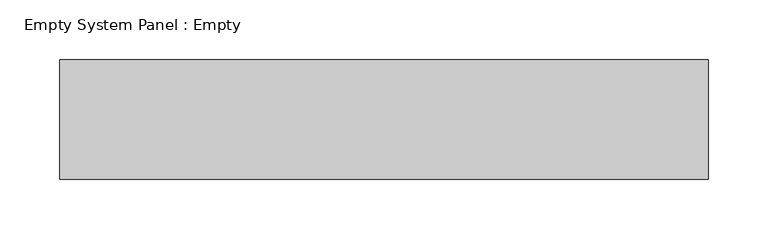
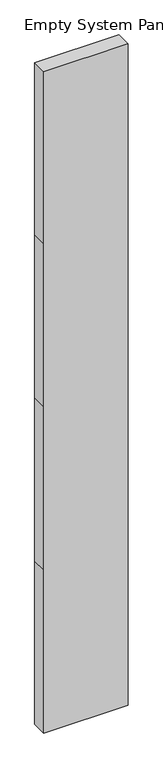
"""IFC4 building model written with IfcOpenShell, lengths in millimetres: plate geometry, Empty System Panel : Empty."""

from ifc_helpers import new_model, si_unit, frame, origin, place, context, project, spatial, polyline, outline, extrude, source, transform, mapped, element, save


def empty_system_panel_empty_afbb3e91(model_context):
    return source(origin(), model_context, "Body", "SweptSolid", [
        extrude(outline(polyline([(0.0, -271.6623204), (0.0, 271.6623204), (1112.5, 271.6623204), (2225.0, 271.6623204), (3337.5, 271.6623204), (4510.0, 271.6623204), (4510.0, -271.6623204), (3337.5, -271.6623204), (2225.0, -271.6623204), (1112.5, -271.6623204), (0.0, -271.6623204)])), frame((0.0, -50.0, 0.0), z_axis=(0.0, 1.0, 0.0), x_axis=(0.0, 0.0, 1.0)), (0.0, 0.0, 1.0), 100.0),
    ])


if __name__ == "__main__":
    model = new_model("IFC4")
    model_context = context("Model", 3, world=origin())
    ifc_project = project(units=[si_unit("LENGTHUNIT", "METRE", prefix="MILLI")], contexts=[model_context])
    site = spatial("IfcSite", under=ifc_project)
    building = spatial("IfcBuilding", under=site)
    placement = place(None, origin())
    empty_system_panel_empty_shape = empty_system_panel_empty_afbb3e91(model_context)
    element("IfcPlate", 1, ObjectType="Empty System Panel : Empty", at=placement, inside=building, context=model_context, shape_type="MappedRepresentation", body=[
        mapped(empty_system_panel_empty_shape, transform((0.0, 0.0, 0.0), x_axis=(1.0, 0.0, 0.0), y_axis=(0.0, 1.0, 0.0), z_axis=(0.0, 0.0, 1.0))),
    ])
    save(model, "model.ifc")
